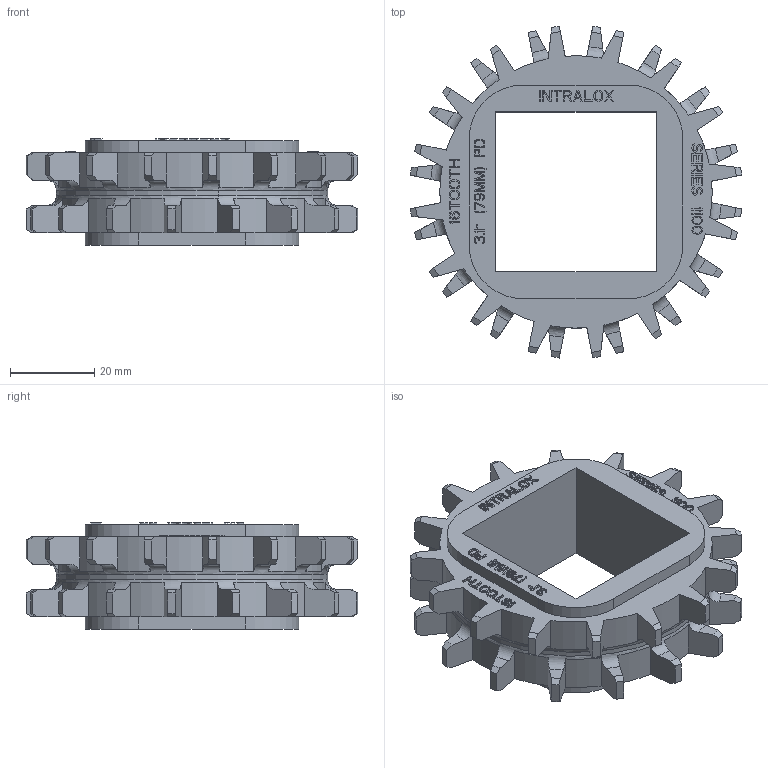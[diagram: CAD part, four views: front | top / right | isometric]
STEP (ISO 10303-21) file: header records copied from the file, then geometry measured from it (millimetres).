
FILE_DESCRIPTION((''),'2;1');
FILE_NAME('S1100_EZ_TRACK_31X15_40_SQ','2008-12-12T',('jmumphre'),(''),'PRO/ENGINEER BY PARAMETRIC TECHNOLOGY CORPORATION, 2008150','PRO/ENGINEER BY PARAMETRIC TECHNOLOGY CORPORATION, 2008150','');
FILE_SCHEMA(('CONFIG_CONTROL_DESIGN'));
Length unit declared in the file: inch
Products named in the file (1): S1100_EZ_TRACK_31X15_40_SQ
Bounding box: 78.99 x 78.99 x 25.27 mm (x, y, z)
Volume: 45442.2 mm3; surface area: 16354.6 mm2
Topology: 1 solids, 1 shells, 1123 faces, 3203 edges, 2134 vertices
Faces by surface type: plane 1045, cylinder 42, cone 32, torus 4
Entity records: 36627 total; most frequent: CARTESIAN_POINT 7434, ORIENTED_EDGE 6406, DIRECTION 5437, EDGE_CURVE 3203, VECTOR 2887, LINE 2887, VERTEX_POINT 2134, AXIS2_PLACEMENT_3D 1275
